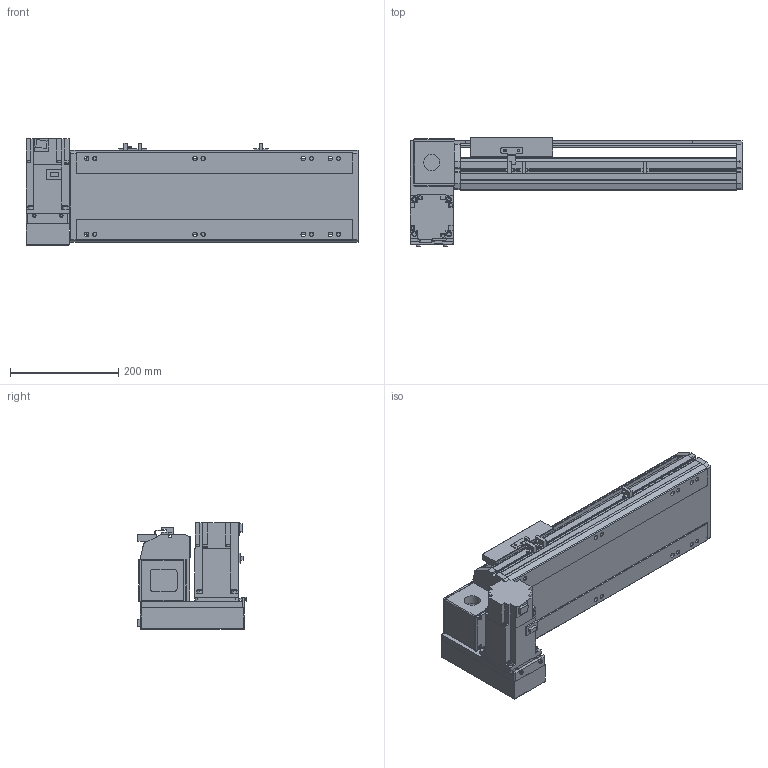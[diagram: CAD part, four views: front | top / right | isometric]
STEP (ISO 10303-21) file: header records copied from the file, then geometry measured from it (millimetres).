
FILE_DESCRIPTION(/* description */ ('STEP AP214'),/* implementation_level */ '2;1');
FILE_NAME(/* name */ 'PBS170-P40-S250-LD-T75-C1-N(0)',/* time_stamp */ '2022-06-07T09:50:21+02:00',/* author */ ('License CC BY-ND 4.0'),/* organization */ ('CADENAS'),/* preprocessor_version */ 'ST-DEVELOPER v18.102',/* originating_system */ 'PARTsolutions',/* authorisation */ ' ');
FILE_SCHEMA (('AUTOMOTIVE_DESIGN {1 0 10303 214 3 1 1}'));
Length unit declared in the file: millimetre
Products named in the file (7): PBS170-P40-S250-LD-T75-C1-N(0); PBS170_sensor; PBS170_plant; PBS170_sliser; T75-p1; PBS170T-LD_motors; PBS170-S250()_body
Assembly tree (8 placements, depth 2):
  PBS170-P40-S250-LD-T75-C1-N(0)
    PBS170_sensor  x3
    PBS170_plant
    PBS170_sliser
    T75-p1
    PBS170T-LD_motors
    PBS170-S250()_body
Bounding box: 613 x 201 x 197.3 mm (x, y, z)
Volume: 5643707.3 mm3; surface area: 796494.4 mm2
Topology: 8 solids, 8 shells, 1018 faces, 2715 edges, 1770 vertices
Faces by surface type: plane 663, cylinder 307, cone 38, sphere 8, torus 2
Full cylindrical faces by diameter (mm): 3.242 x4, 4 x2, 4.4 x4, 4.5 x6, 4.917 x4, 6 x9, 6.647 x16, 7 x2, 7.5 x4, 8 x8, 8.5 x8, 10 x4, 10.5 x8, 11 x2, 30 x2, 40 x1, 70 x1
Entity records: 29286 total; most frequent: CARTESIAN_POINT 5265, DIRECTION 5020, ORIENTED_EDGE 4788, EDGE_CURVE 2394, AXIS2_PLACEMENT_3D 1717, VERTEX_POINT 1634, LINE 1586, VECTOR 1586
